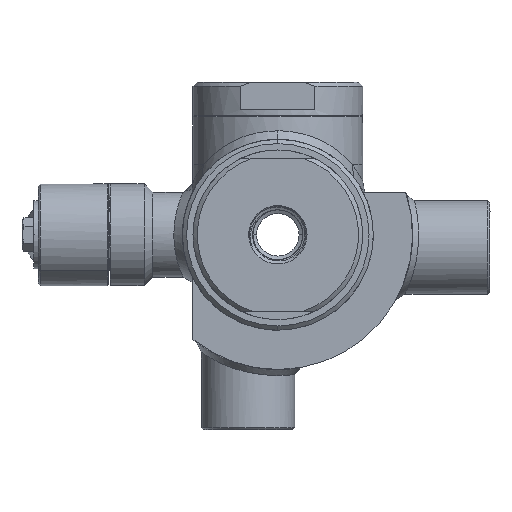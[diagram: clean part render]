
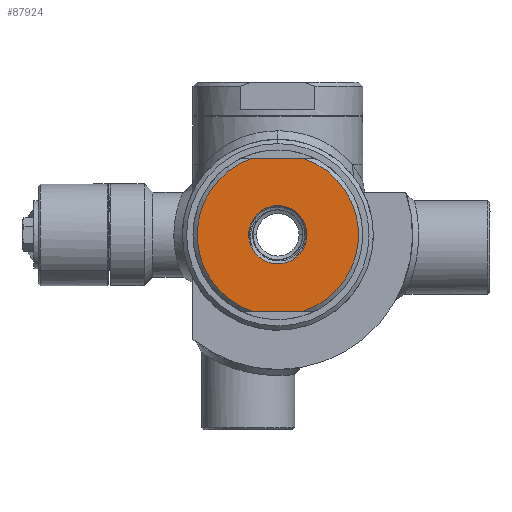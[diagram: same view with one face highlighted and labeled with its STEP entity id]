
A CAD part, left-side view. The second image highlights one B-rep face of the part: STEP entity #87924.
In plain terms, the highlighted planar face has unit normal (-1, 0, 0).
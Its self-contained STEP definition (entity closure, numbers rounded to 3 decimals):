
#32939=CARTESIAN_POINT('',(-36.,0.,0.));
#32940=DIRECTION('',(1.,0.,0.));
#32941=DIRECTION('',(0.,-1.,0.));
#32942=AXIS2_PLACEMENT_3D('',#32939,#32940,#32941);
#33227=CARTESIAN_POINT('',(-36.,0.,0.));
#33228=DIRECTION('',(-1.,0.,0.));
#33229=DIRECTION('',(0.,-1.,0.));
#33230=AXIS2_PLACEMENT_3D('',#33227,#33228,#33229);
#33242=DIRECTION('',(0.,1.,0.));
#33243=VECTOR('',#33242,12.166);
#33244=CARTESIAN_POINT('',(-36.,-6.083,
18.));
#33245=LINE('',#33244,#33243);
#33249=DIRECTION('',(0.,1.,0.));
#33250=VECTOR('',#33249,12.166);
#33251=CARTESIAN_POINT('',(-36.,-6.083,
-18.));
#33252=LINE('',#33251,#33250);
#33256=CARTESIAN_POINT('',(-36.,0.,0.));
#33257=DIRECTION('',(-1.,0.,0.));
#33258=DIRECTION('',(0.,0.32,0.947));
#33259=AXIS2_PLACEMENT_3D('',#33256,#33257,#33258);
#33264=CARTESIAN_POINT('',(-36.,6.083,
-18.));
#33281=CARTESIAN_POINT('',(-36.,-6.083,
-18.));
#33300=CARTESIAN_POINT('',(-36.,0.,0.));
#33301=DIRECTION('',(-1.,0.,0.));
#33302=DIRECTION('',(0.,-0.32,-0.947));
#33303=AXIS2_PLACEMENT_3D('',#33300,#33301,#33302);
#33383=CARTESIAN_POINT('',(-36.,6.083,
18.));
#33409=CARTESIAN_POINT('',(-36.,-6.083,
18.));
#63956=CARTESIAN_POINT('',(-36.,-6.875,0.));
#63957=CARTESIAN_POINT('',(-36.,6.875,0.));
#63958=VERTEX_POINT('',#63956);
#63959=VERTEX_POINT('',#63957);
#64001=VERTEX_POINT('',#33383);
#64004=VERTEX_POINT('',#33264);
#64007=VERTEX_POINT('',#33281);
#64010=VERTEX_POINT('',#33409);
#87905=CARTESIAN_POINT('',(-36.,0.,0.));
#87906=DIRECTION('',(-1.,0.,0.));
#87907=DIRECTION('',(0.,1.,0.));
#87908=AXIS2_PLACEMENT_3D('',#87905,#87906,#87907);
#87909=PLANE('',#87908);
#87911=ORIENTED_EDGE('',*,*,#87910,.F.);
#87913=ORIENTED_EDGE('',*,*,#87912,.F.);
#87915=ORIENTED_EDGE('',*,*,#87914,.F.);
#87917=ORIENTED_EDGE('',*,*,#87916,.T.);
#87918=EDGE_LOOP('',(#87911,#87913,#87915,#87917));
#87919=FACE_OUTER_BOUND('',#87918,.F.);
#87920=ORIENTED_EDGE('',*,*,#87625,.F.);
#87921=ORIENTED_EDGE('',*,*,#87815,.T.);
#87922=EDGE_LOOP('',(#87920,#87921));
#87923=FACE_BOUND('',#87922,.F.);
#87924=ADVANCED_FACE('',(#87919,#87923),#87909,.T.);
#32943=CIRCLE('',#32942,6.875);
#33231=CIRCLE('',#33230,6.875);
#33260=CIRCLE('',#33259,19.);
#33304=CIRCLE('',#33303,19.);
#87625=EDGE_CURVE('',#63958,#63959,#32943,.T.);
#87815=EDGE_CURVE('',#63958,#63959,#33231,.T.);
#87910=EDGE_CURVE('',#64001,#64004,#33260,.T.);
#87912=EDGE_CURVE('',#64010,#64001,#33245,.T.);
#87914=EDGE_CURVE('',#64007,#64010,#33304,.T.);
#87916=EDGE_CURVE('',#64007,#64004,#33252,.T.);
